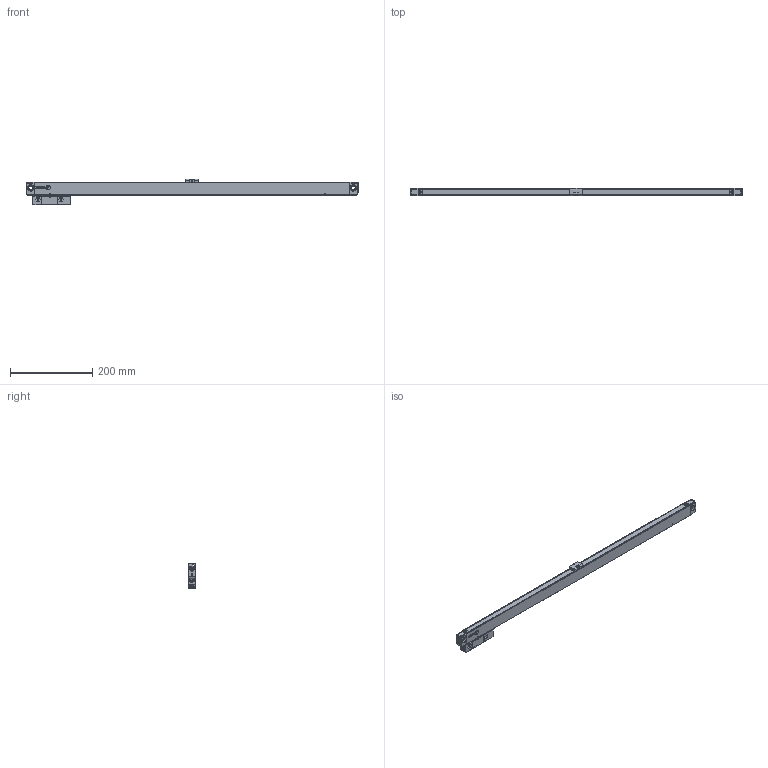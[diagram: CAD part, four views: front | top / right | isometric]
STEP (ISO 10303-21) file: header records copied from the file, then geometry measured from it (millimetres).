
FILE_DESCRIPTION(('Creo Elements/Direct Modeling STEP Export'),'2;1');
FILE_NAME('Regla_S2-670-T.stp','2018-11-06T11:31:32',(''),(''),'Creo Elements/Direct Modeling STEP processor for AP214 (Solid Model)','Creo Elements/Direct Modeling 19.0G 27-Nov-2017 (C) Parametric Technology GmbH','');
FILE_SCHEMA(('AUTOMOTIVE_DESIGN { 1 0 10303 214 1 1 1 1 }'));
Length unit declared in the file: millimetre
Products named in the file (4): REGLA_S-670-T; CABEZA_ROSCADA_REGLA_S; SOPORTE_INTERMEDIO_S; REGLA_S2-670-T
Assembly tree (3 placements, depth 2):
  REGLA_S2-670-T
    SOPORTE_INTERMEDIO_S
    CABEZA_ROSCADA_REGLA_S
    REGLA_S-670-T
Bounding box: 808 x 18.3 x 61.8 mm (x, y, z)
Volume: 452495.2 mm3; surface area: 122864.8 mm2
Topology: 3 solids, 23 shells, 914 faces, 2346 edges, 1512 vertices
Faces by surface type: plane 382, cylinder 307, cone 174, bspline 38, torus 6, sphere 4, extrusion 3
Entity records: 31958 total; most frequent: CARTESIAN_POINT 7536, ORIENTED_EDGE 4664, DIRECTION 3943, EDGE_CURVE 2332, VERTEX_POINT 1512, AXIS2_PLACEMENT_3D 1334, VECTOR 1275, LINE 1272
